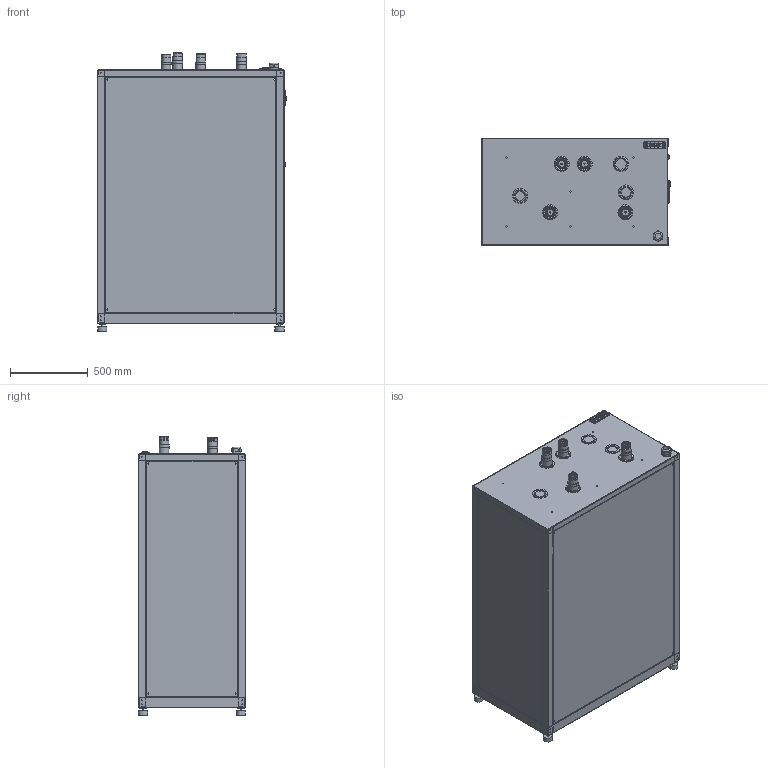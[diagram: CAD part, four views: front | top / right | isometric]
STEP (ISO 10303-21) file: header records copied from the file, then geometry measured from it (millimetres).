
FILE_DESCRIPTION(/* description */ (''),/* implementation_level */ '2;1');
FILE_NAME(/* name */ 'S:\Sami_Timonen_Työt\Zip_paketit_nettisivuille\Taurus_inverter_90_STEP.stp',/* time_stamp */ '2022-04-13T11:02:23+03:00',/* author */ ('sami.timonen'),/* organization */ (''),/* preprocessor_version */ 'ST-DEVELOPER v18.1',/* originating_system */ 'Autodesk Inventor 2020',/* authorisation */ '');
FILE_SCHEMA (('AUTOMOTIVE_DESIGN { 1 0 10303 214 3 1 1 }'));
Products named in the file (1): Taurus90_surface_model_step
Bounding box: 1214.58 x 689 x 1791.5 mm (x, y, z)
Volume: 16485458.4 mm3; surface area: 19761545.8 mm2
Topology: 82 solids, 86 shells, 4400 faces, 11448 edges, 7449 vertices
Faces by surface type: plane 2666, cylinder 922, bspline 432, cone 289, torus 75, sphere 16
Full cylindrical faces by diameter (mm): 0.9 x30, 1.6 x60, 2 x1, 2.6 x2, 3 x4, 3.5 x2, 3.55 x1, 4 x14, 5 x4, 5.5 x52, 5.7 x1, 6 x2, 7 x26, 7.9 x4, 8 x12, 8.975 x2, 9 x16, 9.2 x1, 9.9 x4, 10 x26, 10.11 x4, 11.5 x30, 13 x16, 15 x2, 16.4 x2, 17 x2, 18 x8, 18.631 x4, 19.5 x2, 21 x2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
Entity records: 150128 total; most frequent: CARTESIAN_POINT 37884, ORIENTED_EDGE 22900, DIRECTION 21359, EDGE_CURVE 11450, VERTEX_POINT 7453, LINE 7235, VECTOR 7235, AXIS2_PLACEMENT_3D 7062
